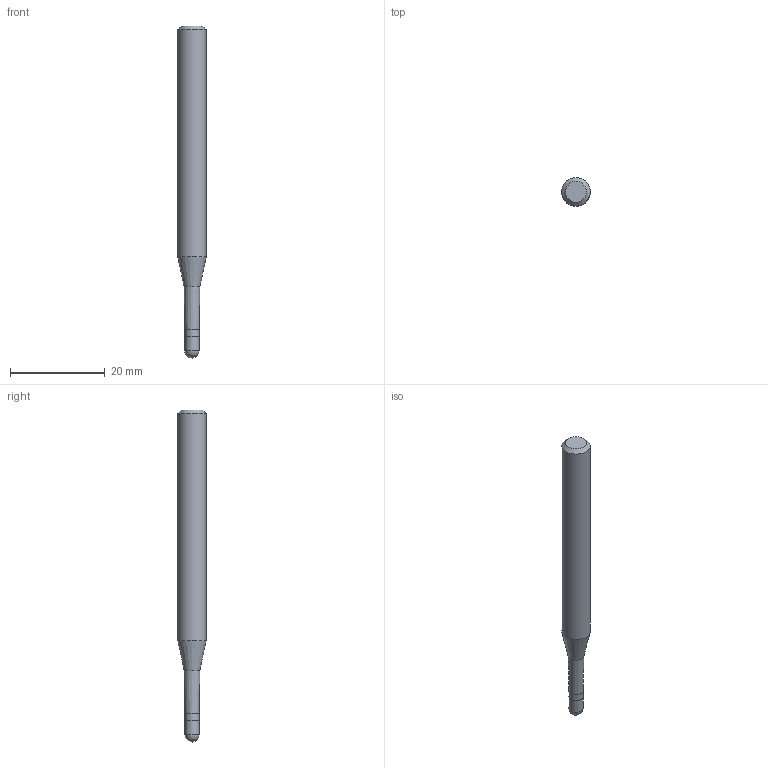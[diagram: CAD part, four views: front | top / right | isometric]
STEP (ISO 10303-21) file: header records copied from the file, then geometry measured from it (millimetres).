
FILE_DESCRIPTION((''),'2;1');
FILE_NAME('C:\Users\nsx150\AppData\Local\Temp\Mastercam 2021\E0ENTZRV18\TEMP.step','2021-09-02T09:57:16',(''),(''),'STEP Write','Mastercam 2021 ... CNC Software, Inc.','');
FILE_SCHEMA(('AUTOMOTIVE_DESIGN'));
Length unit declared in the file: millimetre
Products named in the file (1): None
Bounding box: 6 x 6 x 70 mm (x, y, z)
Volume: 1590.1 mm3; surface area: 1190.1 mm2
Topology: 2 solids, 2 shells, 10 faces, 16 edges, 9 vertices
Faces by surface type: plane 3, cylinder 3, cone 3, sphere 1
Full cylindrical faces by diameter (mm): 2.98 x1, 3 x1, 6 x1
Entity records: 232 total; most frequent: DIRECTION 40, CARTESIAN_POINT 28, AXIS2_PLACEMENT_3D 20, ORIENTED_EDGE 16, EDGE_LOOP 16, STYLED_ITEM 13, ADVANCED_FACE 10, FACE_BOUND 9
